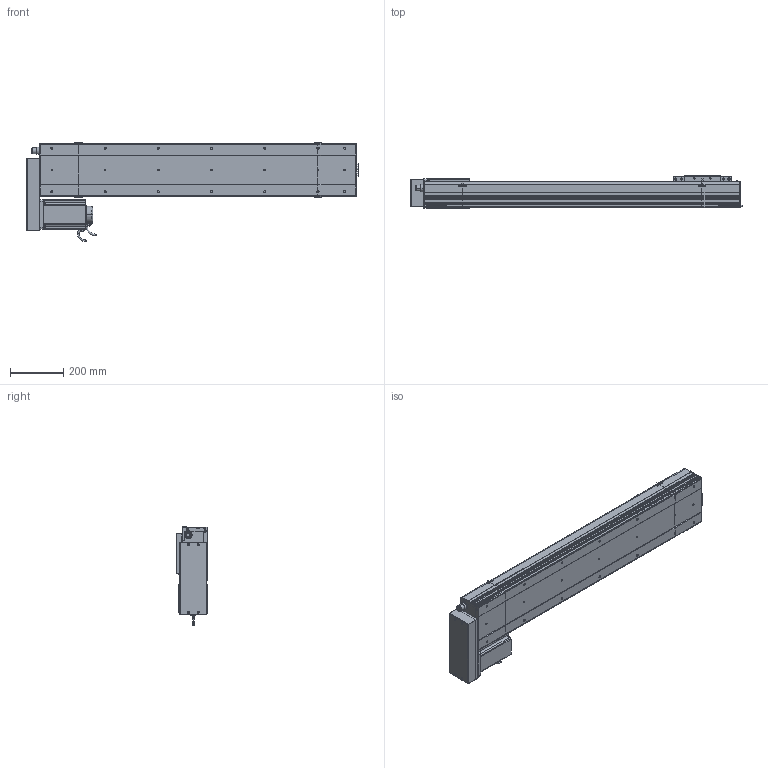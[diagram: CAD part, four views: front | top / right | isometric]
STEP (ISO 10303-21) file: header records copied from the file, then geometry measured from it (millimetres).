
FILE_DESCRIPTION (( 'STEP AP214' ), '1' );
FILE_NAME ('D20 CSH BR S900.STEP', '2010-06-30T08:12:53', ( 'Conseil Régional Haute-Normandie' ), ( 'Conseil Régional Haute-Normandie' ), 'SwSTEP 2.0', 'SolidWorks 2010', '' );
FILE_SCHEMA (( 'AUTOMOTIVE_DESIGN' ));
Length unit declared in the file: millimetre
Products named in the file (31): Plaque de Bout Tail D20_Default; D20 CSH BR S900; Plaque De Serrage D20_Default; Couvercle_Default; Corp Tail D20+100_Default; Tail D20+100_Default; Couvercle S900_Default; Corp D20 S900_Default; Corp S900_Default; Cache Moteur BR D20_Default; ecrou_Default; vis M5 L15_Default; vis M5 L47_Default; vis M5 L30_Default; clavette; corps 110BLDC170A-630x; avant 110BLDC170A-630x; Moteur motionking 110BLDC170A-640x; Conecteur_Default; Conecteur2_Default; codeur 110BLDC170A-630x; Plaque De Serrage Head BR D20_Default; Couvercle Head BR_Default; Support Chariot D20_Default; Corp Head BR D20_Default; Chariot D20_Default; Glissiere_Default; Support moteur BR D20_Default; Plaque de Bout Head BR D20_Default; Head D20 BR_Default
Assembly tree (60 placements, depth 4):
  D20 CSH BR S900
    Tail D20+100_Default
      Corp Tail D20+100_Default
      vis M5 L15_Default  x6
      Plaque de Bout Tail D20_Default
      Plaque De Serrage D20_Default
      Couvercle_Default
    Corp D20 S900_Default
      Couvercle S900_Default
      Corp S900_Default
    Chariot D20_Default
      vis M5 L15_Default  x8
      Glissiere_Default
      Support Chariot D20_Default
      Chariot D20_Default
    Head D20 BR_Default
      vis M5 L15_Default  x8
      ecrou_Default  x4
      Cache Moteur BR D20_Default
      vis M5 L47_Default  x4
      vis M5 L30_Default  x4
      Moteur motionking 110BLDC170A-640x
        corps 110BLDC170A-630x
        codeur 110BLDC170A-630x
        Conecteur2_Default
        clavette
        avant 110BLDC170A-630x
        Conecteur_Default
      Plaque de Bout Head BR D20_Default
      Couvercle Head BR_Default
      Corp Head BR D20_Default
      Support moteur BR D20_Default
      Plaque De Serrage Head BR D20_Default
Bounding box: 1247.7 x 120 x 372 mm (x, y, z)
Volume: 10544449.3 mm3; surface area: 2007055 mm2
Topology: 97 solids, 97 shells, 3568 faces, 8969 edges, 5841 vertices
Faces by surface type: plane 2009, bspline 806, cylinder 607, torus 83, cone 63
Entity records: 156929 total; most frequent: CARTESIAN_POINT 81882, ORIENTED_EDGE 14886, DIRECTION 11127, EDGE_CURVE 7443, VERTEX_POINT 4929, VECTOR 4883, LINE 4883, EDGE_LOOP 3168
